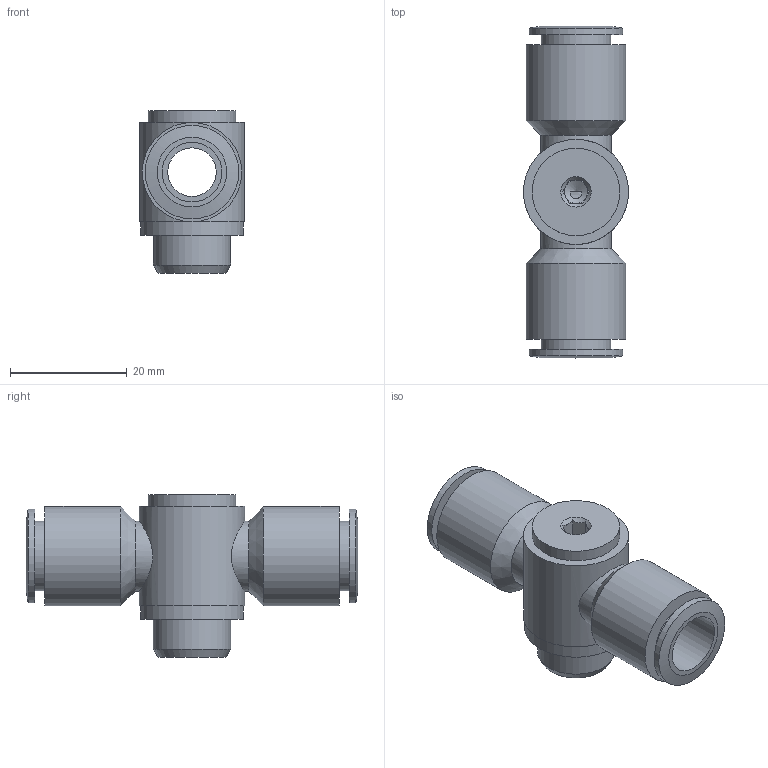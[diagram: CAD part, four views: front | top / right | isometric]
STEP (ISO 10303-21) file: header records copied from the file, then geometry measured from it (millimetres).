
FILE_DESCRIPTION((''),'2;1');
FILE_NAME('C:\Documents and Settings\rivolro1\Documenti\copia di Raccordi\PLASTICA\T16XXXX\T161014.stp','2007-10-31T15:06:59',('Rivolro1'),(''),'Autodesk Inventor 2008','Autodesk Inventor 2008','');
FILE_SCHEMA(('AUTOMOTIVE_DESIGN { 1 0 10303 214 1 1 1 1 }'));
Length unit declared in the file: millimetre
Products named in the file (1): T161014
Bounding box: 18 x 56.8 x 27.8 mm (x, y, z)
Volume: 9790.2 mm3; surface area: 6270.4 mm2
Topology: 1 solids, 1 shells, 50 faces, 105 edges, 67 vertices
Faces by surface type: plane 24, cylinder 13, bspline 8, cone 5
Full cylindrical faces by diameter (mm): 11.9 x2, 12 x2, 13.2 x1, 15 x1, 16 x2, 17 x2, 17.6 x1, 18 x1
Entity records: 1476 total; most frequent: CARTESIAN_POINT 494, DIRECTION 186, ORIENTED_EDGE 150, EDGE_LOOP 87, AXIS2_PLACEMENT_3D 83, EDGE_CURVE 75, VERTEX_POINT 62, FACE_OUTER_BOUND 50
